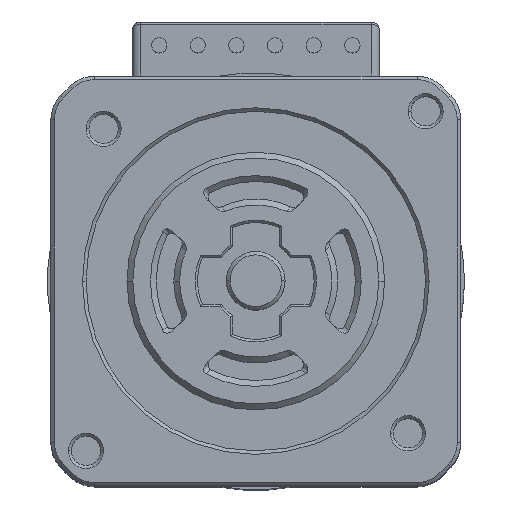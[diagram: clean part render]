
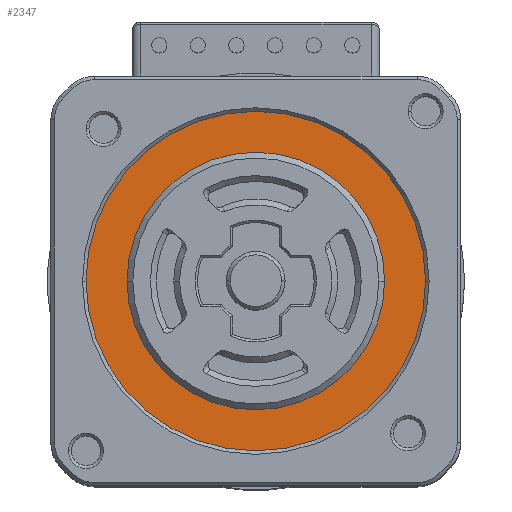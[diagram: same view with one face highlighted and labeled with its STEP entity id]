
A CAD part, top view. The second image highlights one B-rep face of the part: STEP entity #2347.
In plain terms, the highlighted planar face has unit normal (0, 0, 1).
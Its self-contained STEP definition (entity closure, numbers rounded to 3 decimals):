
#53 = VERTEX_POINT ( 'NONE', #11362 ) ;
#645 = EDGE_LOOP ( 'NONE', ( #2203, #2209 ) ) ;
#649 = EDGE_LOOP ( 'NONE', ( #2204, #2206 ) ) ;
#2203 = ORIENTED_EDGE ( 'NONE', *, *, #2466, .T. ) ;
#2204 = ORIENTED_EDGE ( 'NONE', *, *, #2465, .F. ) ;
#2206 = ORIENTED_EDGE ( 'NONE', *, *, #2566, .F. ) ;
#2209 = ORIENTED_EDGE ( 'NONE', *, *, #2562, .T. ) ;
#2347 = ADVANCED_FACE ( 'NONE', ( #6124, #6125 ), #6641, .T. ) ;
#2465 = EDGE_CURVE ( 'NONE', #10394, #10390, #5228, .T. ) ;
#2466 = EDGE_CURVE ( 'NONE', #53, #4406, #5219, .T. ) ;
#2562 = EDGE_CURVE ( 'NONE', #4406, #53, #5332, .T. ) ;
#2566 = EDGE_CURVE ( 'NONE', #10390, #10394, #5337, .T. ) ;
#4406 = VERTEX_POINT ( 'NONE', #8494 ) ;
#5077 = AXIS2_PLACEMENT_3D ( 'NONE', #6642, #6643, #6644 ) ;
#5219 = CIRCLE ( 'NONE', #5234, 14.5 ) ;
#5228 = CIRCLE ( 'NONE', #5232, 11. ) ;
#5232 = AXIS2_PLACEMENT_3D ( 'NONE', #7035, #7036, #7037 ) ;
#5234 = AXIS2_PLACEMENT_3D ( 'NONE', #7038, #7039, #7040 ) ;
#5332 = CIRCLE ( 'NONE', #5334, 14.5 ) ;
#5334 = AXIS2_PLACEMENT_3D ( 'NONE', #7366, #7367, #7368 ) ;
#5337 = CIRCLE ( 'NONE', #5341, 11. ) ;
#5341 = AXIS2_PLACEMENT_3D ( 'NONE', #7376, #7377, #7378 ) ;
#6124 = FACE_BOUND ( 'NONE', #649, .T. ) ;
#6125 = FACE_OUTER_BOUND ( 'NONE', #645, .T. ) ;
#6641 = PLANE ( 'NONE',  #5077 ) ;
#6642 = CARTESIAN_POINT ( 'NONE',  ( 0., 0., 7.9 ) ) ;
#6643 = DIRECTION ( 'NONE',  ( 0., 0., 1. ) ) ;
#6644 = DIRECTION ( 'NONE',  ( 1., 0., 0. ) ) ;
#7035 = CARTESIAN_POINT ( 'NONE',  ( 0., 0., 7.9 ) ) ;
#7036 = DIRECTION ( 'NONE',  ( 0., 0., 1. ) ) ;
#7037 = DIRECTION ( 'NONE',  ( 1., 0., 0. ) ) ;
#7038 = CARTESIAN_POINT ( 'NONE',  ( 0., 0., 7.9 ) ) ;
#7039 = DIRECTION ( 'NONE',  ( 0., 0., 1. ) ) ;
#7040 = DIRECTION ( 'NONE',  ( 1., 0., 0. ) ) ;
#7366 = CARTESIAN_POINT ( 'NONE',  ( 0., 0., 7.9 ) ) ;
#7367 = DIRECTION ( 'NONE',  ( 0., 0., 1. ) ) ;
#7368 = DIRECTION ( 'NONE',  ( 1., 0., 0. ) ) ;
#7376 = CARTESIAN_POINT ( 'NONE',  ( 0., 0., 7.9 ) ) ;
#7377 = DIRECTION ( 'NONE',  ( 0., 0., 1. ) ) ;
#7378 = DIRECTION ( 'NONE',  ( 1., 0., 0. ) ) ;
#8494 = CARTESIAN_POINT ( 'NONE',  ( -14.5, 0., 7.9 ) ) ;
#8829 = CARTESIAN_POINT ( 'NONE',  ( 11., 0., 7.9 ) ) ;
#8833 = CARTESIAN_POINT ( 'NONE',  ( -11., 0., 7.9 ) ) ;
#10390 = VERTEX_POINT ( 'NONE', #8829 ) ;
#10394 = VERTEX_POINT ( 'NONE', #8833 ) ;
#11362 = CARTESIAN_POINT ( 'NONE',  ( 14.5, 0., 7.9 ) ) ;
